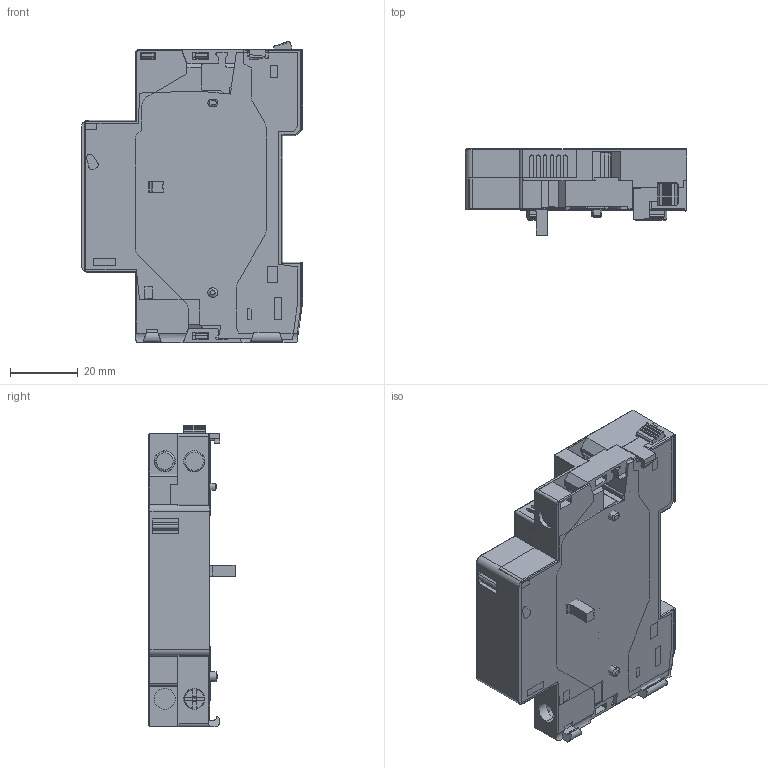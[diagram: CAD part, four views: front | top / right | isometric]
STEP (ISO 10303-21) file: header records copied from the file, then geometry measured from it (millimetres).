
FILE_DESCRIPTION((''),'2;1');
FILE_NAME('NS2-UV','2022-03-06T09:33:50',('lishuai1'),(''),'CREO PARAMETRIC BY PTC INC, 2020044','CREO PARAMETRIC BY PTC INC, 2020044','');
FILE_SCHEMA(('CONFIG_CONTROL_DESIGN','SHAPE_APPEARANCE_LAYERS_GROUPS'));
Length unit declared in the file: millimetre
Products named in the file (1): NS2-UV
Bounding box: 65.5 x 25.5 x 89.21 mm (x, y, z)
Surface area: 25289.1 mm2 (no closed solid volume)
Topology: 0 solids, 11 shells, 556 faces, 2202 edges, 1604 vertices
Faces by surface type: plane 377, cylinder 132, torus 23, cone 16, bspline 8
Entity records: 24749 total; most frequent: CARTESIAN_POINT 5783, DIRECTION 3484, ORIENTED_EDGE 3463, EDGE_CURVE 2200, VECTOR 1680, LINE 1680, VERTEX_POINT 1604, AXIS2_PLACEMENT_3D 902
